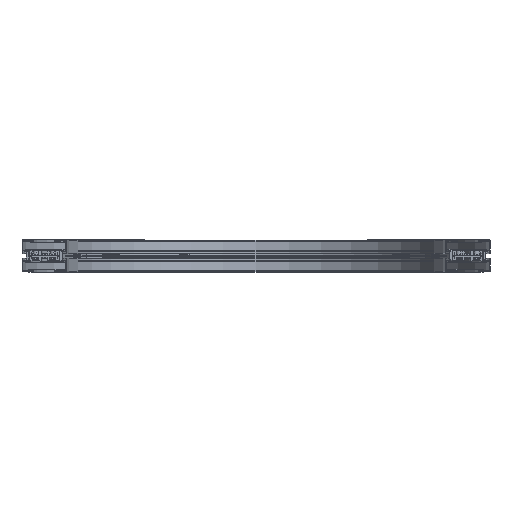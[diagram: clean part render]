
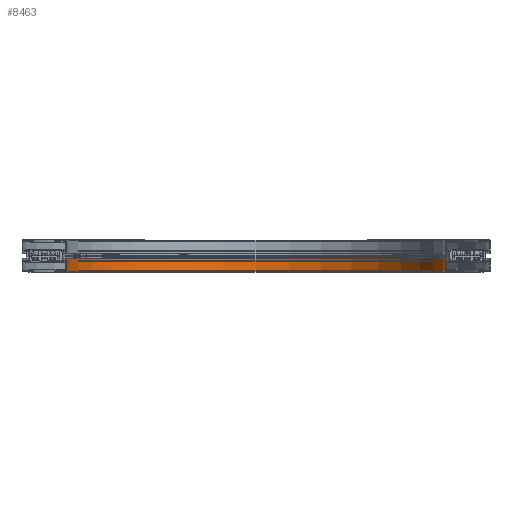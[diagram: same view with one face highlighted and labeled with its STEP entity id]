
A CAD part, top view. The second image highlights one B-rep face of the part: STEP entity #8463.
In plain terms, the highlighted cylindrical face has radius 447.5 mm (diameter 895 mm), a partial arc.
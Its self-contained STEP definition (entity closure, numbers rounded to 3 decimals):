
#4923 = FACE_OUTER_BOUND ( 'NONE', #7957, .T. ) ;
#4925 = DIRECTION ( 'NONE',  ( 0., 1., 0. ) ) ;
#4927 = CYLINDRICAL_SURFACE ( 'NONE', #22026, 447.5 ) ;
#4928 = CARTESIAN_POINT ( 'NONE',  ( 200., 0., 500. ) ) ;
#4930 = DIRECTION ( 'NONE',  ( 0., 0., 1. ) ) ;
#6088 = EDGE_CURVE ( 'NONE', #8113, #8094, #20524, .T. ) ;
#6091 = EDGE_CURVE ( 'NONE', #8023, #8107, #20525, .T. ) ;
#6092 = EDGE_CURVE ( 'NONE', #8107, #8094, #21007, .T. ) ;
#6093 = EDGE_CURVE ( 'NONE', #8023, #8113, #21012, .T. ) ;
#7339 = ORIENTED_EDGE ( 'NONE', *, *, #6091, .T. ) ;
#7340 = ORIENTED_EDGE ( 'NONE', *, *, #6092, .T. ) ;
#7341 = ORIENTED_EDGE ( 'NONE', *, *, #6088, .F. ) ;
#7342 = ORIENTED_EDGE ( 'NONE', *, *, #6093, .F. ) ;
#7957 = EDGE_LOOP ( 'NONE', ( #7339, #7340, #7341, #7342 ) ) ;
#8023 = VERTEX_POINT ( 'NONE', #21635 ) ;
#8094 = VERTEX_POINT ( 'NONE', #21686 ) ;
#8107 = VERTEX_POINT ( 'NONE', #21699 ) ;
#8113 = VERTEX_POINT ( 'NONE', #21705 ) ;
#8463 = ADVANCED_FACE ( 'NONE', ( #4923 ), #4927, .F. ) ;
#20524 = CIRCLE ( 'NONE', #20526, 447.5 ) ;
#20525 = CIRCLE ( 'NONE', #20532, 447.5 ) ;
#20526 = AXIS2_PLACEMENT_3D ( 'NONE', #20998, #20999, #21000 ) ;
#20529 = VECTOR ( 'NONE', #21011, 1000. ) ;
#20532 = AXIS2_PLACEMENT_3D ( 'NONE', #21008, #21009, #21010 ) ;
#20533 = VECTOR ( 'NONE', #21014, 1000. ) ;
#20997 = CARTESIAN_POINT ( 'NONE',  ( 200., 30.65, 52.5 ) ) ;
#20998 = CARTESIAN_POINT ( 'NONE',  ( 200., 0., 500. ) ) ;
#20999 = DIRECTION ( 'NONE',  ( 0., 1., 0. ) ) ;
#21000 = DIRECTION ( 'NONE',  ( 0., 0., 1. ) ) ;
#21007 = LINE ( 'NONE', #20997, #20529 ) ;
#21008 = CARTESIAN_POINT ( 'NONE',  ( 200., 30.65, 500. ) ) ;
#21009 = DIRECTION ( 'NONE',  ( 0., 1., 0. ) ) ;
#21010 = DIRECTION ( 'NONE',  ( 0., 0., 1. ) ) ;
#21011 = DIRECTION ( 'NONE',  ( 0., -1., 0. ) ) ;
#21012 = LINE ( 'NONE', #21013, #20533 ) ;
#21013 = CARTESIAN_POINT ( 'NONE',  ( 200., 30.65, 947.5 ) ) ;
#21014 = DIRECTION ( 'NONE',  ( 0., -1., 0. ) ) ;
#21635 = CARTESIAN_POINT ( 'NONE',  ( 200., 30.65, 947.5 ) ) ;
#21686 = CARTESIAN_POINT ( 'NONE',  ( 200., 0., 52.5 ) ) ;
#21699 = CARTESIAN_POINT ( 'NONE',  ( 200., 30.65, 52.5 ) ) ;
#21705 = CARTESIAN_POINT ( 'NONE',  ( 200., 0., 947.5 ) ) ;
#22026 = AXIS2_PLACEMENT_3D ( 'NONE', #4928, #4925, #4930 ) ;
